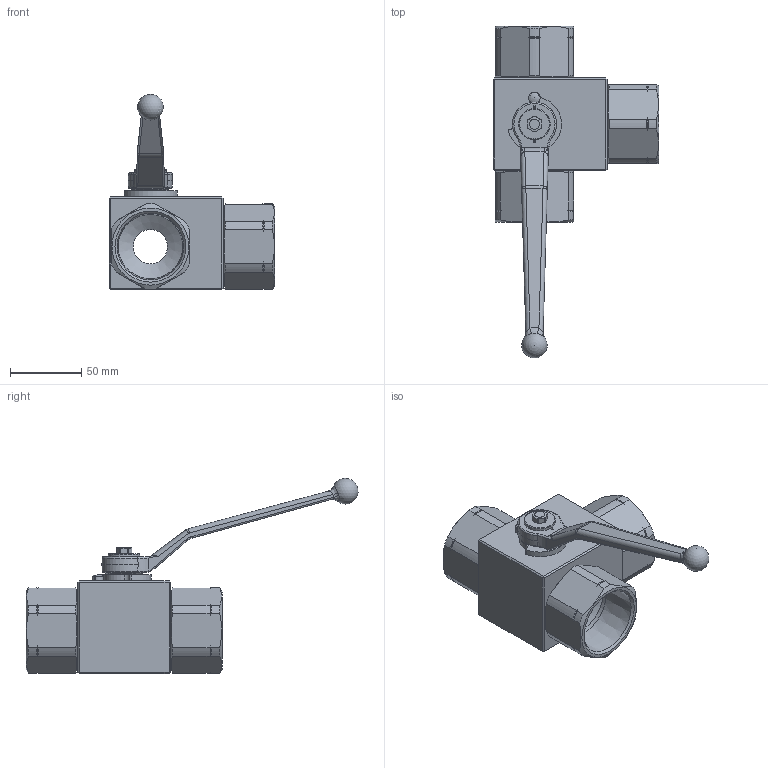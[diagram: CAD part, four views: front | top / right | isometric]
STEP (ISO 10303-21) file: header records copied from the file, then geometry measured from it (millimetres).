
FILE_DESCRIPTION( ( 'Unknown' ), '1' );
FILE_NAME( 'H:/PISTER/3D-MODELLE/BK3-Edelstahl stp/BK3-Edelst DN25 3_2 NPT.stp', 'Unknown', ( 'Unknown' ), ( 'Unknown' ), 'PSStep 14.0', 'Unknown', ' ' );
FILE_SCHEMA( ( 'AUTOMOTIVE_DESIGN { 1 0 10303 214 1 1 1 1 }' ) );
Length unit declared in the file: millimetre
Products named in the file (12): Assem1; 58-28740-10-oa0; 10-025-001-oa2; 56-032-125-oa6; 06-025-009-oa8; 58-0440-007; 58-0933-248; Griff_SW14; 04-025-046-oa9; 04-025-046-oa10; 04-025-046-oa11; 01-025-084-oa12
Assembly tree (11 placements, depth 2):
  Assem1
    58-28740-10-oa0
    10-025-001-oa2
    56-032-125-oa6
    06-025-009-oa8
    58-0440-007
    58-0933-248
    Griff_SW14
    04-025-046-oa9
    04-025-046-oa10
    04-025-046-oa11
    01-025-084-oa12
Bounding box: 116.25 x 232.68 x 136.9 mm (x, y, z)
Volume: 355738.9 mm3; surface area: 102228.3 mm2
Topology: 11 solids, 11 shells, 396 faces, 1031 edges, 660 vertices
Faces by surface type: plane 134, cylinder 123, cone 69, torus 35, bspline 32, sphere 3
Full cylindrical faces by diameter (mm): 5 x1, 6 x1, 6.6 x1, 7.98 x1, 20 x2, 20.2 x1, 22 x1, 24 x4, 25 x1, 32 x1, 39.3 x1, 41.376 x1, 41.5 x1, 43 x1, 43.3 x1, 45 x3, 45.207 x3, 48 x3, 50.5 x3
Entity records: 17402 total; most frequent: CARTESIAN_POINT 5218, ORIENTED_EDGE 1836, DIRECTION 1737, EDGE_CURVE 918, AXIS2_PLACEMENT_3D 713, VERTEX_POINT 623, EDGE_LOOP 495, FACE_OUTER_BOUND 435
